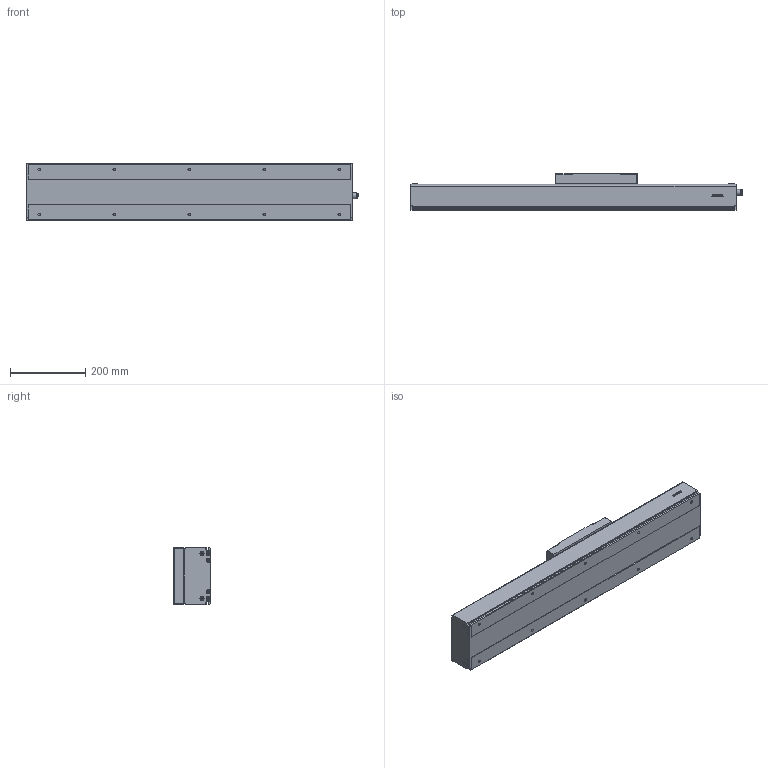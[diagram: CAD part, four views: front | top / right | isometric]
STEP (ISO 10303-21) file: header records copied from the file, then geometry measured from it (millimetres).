
FILE_DESCRIPTION(/* description */ (''),/* implementation_level */ '2;1');
FILE_NAME(/* name */ 'D:\混合母檔20191031\混和母檔\混和母檔\bin\Debug\Download\3D\KS150-20C-350AFI\KS150-20C-350AFI.stp',/* time_stamp */ '2019-11-04T15:57:21+08:00',/* author */ ('user'),/* organization */ (''),/* preprocessor_version */ 'ST-DEVELOPER v16.13',/* originating_system */ 'Autodesk Inventor 2018',/* authorisation */ '');
FILE_SCHEMA (('AUTOMOTIVE_DESIGN { 1 0 10303 214 3 1 1 }'));
Length unit declared in the file: millimetre
Products named in the file (3): KS150-20C-350AFI; KS150-FI; KS150-SL
Assembly tree (2 placements, depth 2):
  KS150-20C-350AFI
    KS150-FI
    KS150-SL
Bounding box: 885.05 x 100 x 152.4 mm (x, y, z)
Volume: 3964183.5 mm3; surface area: 921688.7 mm2
Topology: 4 solids, 8 shells, 1233 faces, 3255 edges, 2112 vertices
Faces by surface type: plane 615, cone 224, cylinder 186, bspline 136, torus 68, sphere 4
Full cylindrical faces by diameter (mm): 3.242 x12, 3.571 x8, 4.134 x4, 4.5 x8, 4.509 x6, 4.917 x4, 5 x18, 5.5 x12, 6 x2, 6.647 x14, 8 x4, 8.4 x8, 9.3 x12, 10.437 x1, 12 x1, 14 x1, 15 x1, 15.538 x1, 23 x1, 46 x1, 50 x1
Entity records: 40808 total; most frequent: CARTESIAN_POINT 12696, ORIENTED_EDGE 5824, DIRECTION 5393, EDGE_CURVE 2912, VERTEX_POINT 2008, AXIS2_PLACEMENT_3D 1864, LINE 1665, VECTOR 1665
